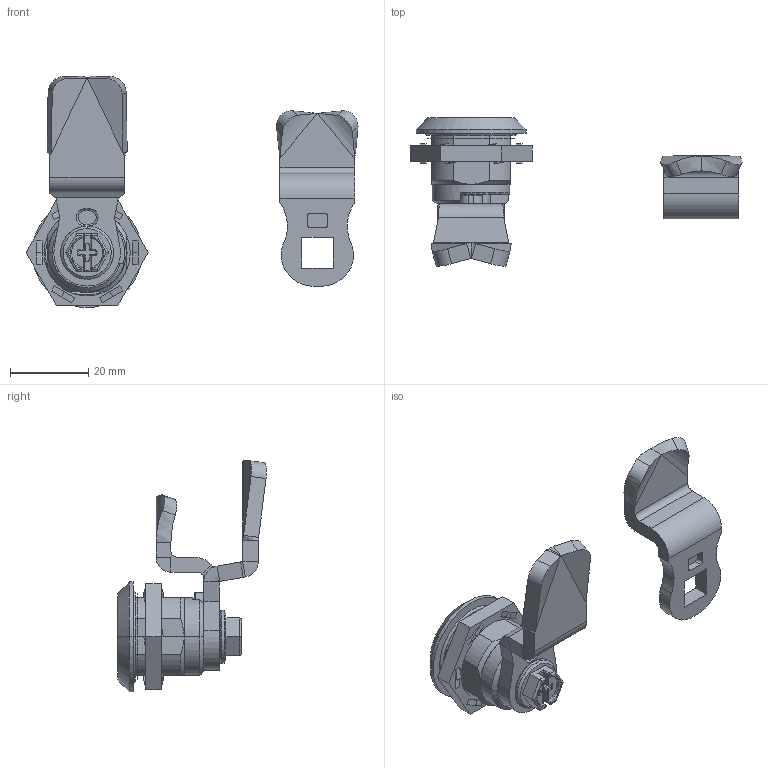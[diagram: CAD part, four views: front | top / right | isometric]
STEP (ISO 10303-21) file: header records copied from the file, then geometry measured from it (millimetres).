
FILE_DESCRIPTION((''),'2;1');
FILE_NAME('101758_ASM','2020-09-30T14:54:11',('dougp'),('SAGINAW CONTROL & ENGINEERING'),'CREO PARAMETRIC BY PTC INC, 2017260','CREO PARAMETRIC BY PTC INC, 2017260','');
FILE_SCHEMA(('AUTOMOTIVE_DESIGN { 1 0 10303 214 1 1 1 1 }'));
Length unit declared in the file: inch
Products named in the file (8): 101758_SHAFT; 101758_INSERT; 102804_CAM_28MM; 101758_NUT; 101758_SCREW; Q-TURN-SEAL-O-RING; 128577; 101758_ASM
Assembly tree (7 placements, depth 2):
  101758_ASM
    101758_SHAFT
    101758_INSERT
    102804_CAM_28MM
    101758_NUT
    101758_SCREW
    Q-TURN-SEAL-O-RING
    128577
Bounding box: 84.67 x 37.98 x 58.99 mm (x, y, z)
Volume: 8879.1 mm3; surface area: 13625.8 mm2
Topology: 5 solids, 10 shells, 506 faces, 1266 edges, 794 vertices
Faces by surface type: plane 280, cylinder 161, bspline 26, torus 19, cone 16, sphere 4
Entity records: 22002 total; most frequent: CARTESIAN_POINT 4223, DIRECTION 2576, ORIENTED_EDGE 2516, PRESENTATION_STYLE_ASSIGNMENT 1311, STYLED_ITEM 1308, CURVE_STYLE 1262, EDGE_CURVE 1262, AXIS2_PLACEMENT_3D 897
